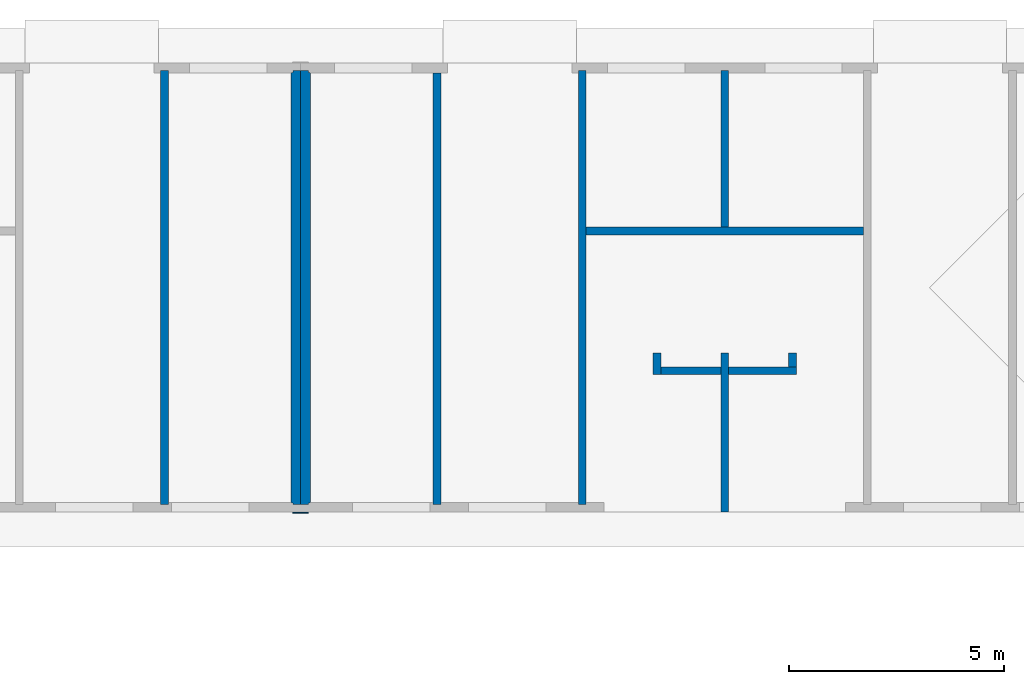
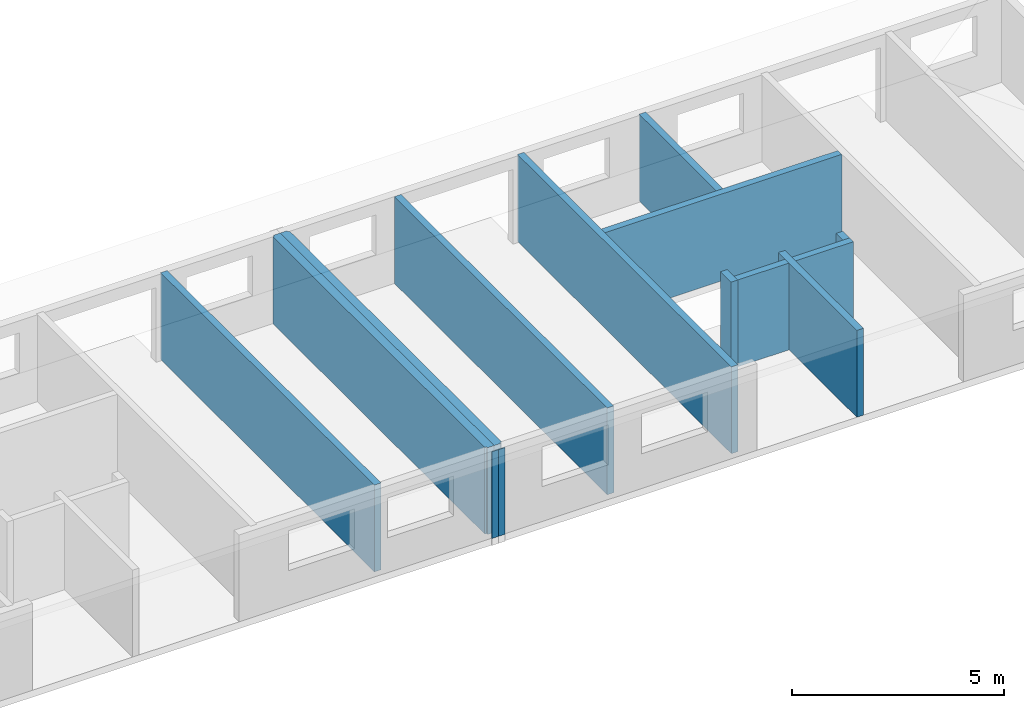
# One storey, part 4 of 9: 14 walls.
"""IFC2X3 building model written with IfcOpenShell, lengths in millimetres."""

from ifc_helpers import new_model, entity, si_unit, converted_unit, frame, frame_2d, origin, origin_with_axes, place, context, subcontext, project, spatial, polyline, rectangle, outline, extrude, material, layer, layer_set, layer_usage, element, save


model = new_model("IFC2X3")

# Units and contexts
model_context = context("Model", 3, precision=1e-05, world=origin())
plan_context = context("Plan", 3, precision=1e-05, world=origin())
body_context = subcontext(model_context, "Body", "Model", "MODEL_VIEW")
ifc_project = project(units=[si_unit("LENGTHUNIT", "METRE", prefix="MILLI"), converted_unit("PLANEANGLEUNIT", "DEGREE", entity("IfcPlaneAngleMeasure", 0.0174532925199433), si_unit("PLANEANGLEUNIT", "RADIAN"), dimensions=[0, 0, 0, 0, 0, 0, 0]), si_unit("AREAUNIT", "SQUARE_METRE"), si_unit("VOLUMEUNIT", "CUBIC_METRE")], contexts=[model_context, plan_context])

# Building, storey
building_placement = place(None, origin())
building = spatial("IfcBuilding", under=ifc_project, at=building_placement, Name="Bâtiment", CompositionType="ELEMENT")
storey_placement = place(building_placement, frame((0.0, 0.0, 8100.0), z_axis=(0.0, 0.0, 1.0), x_axis=(1.0, 0.0, 0.0)))
storey = spatial("IfcBuildingStorey", under=building, at=storey_placement, Name="r+3", CompositionType="ELEMENT", Elevation=8100.0)

# Walls
ifc_material_1 = material(Name="moellons")
ifc_layer_1 = layer(ifc_material_1, 180.0)
ifc_material_2 = material(Name="briquettes")
ifc_layer_2 = layer(ifc_material_2, 40.0)
ifc_material_3 = material(Name="enduit platre")
ifc_layer_3 = layer(ifc_material_3, 10.0)
ifc_layer_set_1 = layer_set([ifc_layer_1, ifc_layer_2, ifc_layer_3])
ifc_layer_usage_1 = layer_usage(ifc_layer_set_1, "AXIS2", "POSITIVE", 0.0)
wall_1_placement = place(storey_placement, frame((19849.99999999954, 10290.07776548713, 0.0), z_axis=(0.0, 0.0, 1.0), x_axis=(-3.605559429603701e-16, -1.0, 0.0)))
element("IfcWallStandardCase", 1, at=wall_1_placement, inside=storey, material=ifc_layer_usage_1, context=body_context, shape_type="SweptSolid", body=[
    extrude(outline(polyline([(0.0, 0.0), (10089.91497192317, 0.0), (10089.91497192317, 180.0), (10049.91497192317, 180.0), (10049.91497192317, 220.0), (10039.91497192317, 220.0), (10039.91497192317, 230.0), (49.99999999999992, 230.0), (49.99999999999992, 220.0), (39.99999999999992, 220.0), (39.99999999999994, 180.0), (-6.490006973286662e-14, 180.0), (0.0, 0.0)])), origin_with_axes(), (0.0, 0.0, 1.0), 2500.0),
])
ifc_material_4 = material(Name="moellons")
ifc_layer_4 = layer(ifc_material_4, 180.0)
ifc_material_5 = material(Name="briquettes")
ifc_layer_5 = layer(ifc_material_5, 40.0)
ifc_material_6 = material(Name="enduit platre")
ifc_layer_6 = layer(ifc_material_6, 10.0)
ifc_layer_set_2 = layer_set([ifc_layer_4, ifc_layer_5, ifc_layer_6])
ifc_layer_usage_2 = layer_usage(ifc_layer_set_2, "AXIS2", "POSITIVE", 0.0)
wall_2_placement = place(storey_placement, frame((19849.99999999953, 200.16279356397, 0.0), z_axis=(0.0, 0.0, 1.0), x_axis=(0.0, 1.0, 0.0)))
element("IfcWallStandardCase", 2, at=wall_2_placement, inside=storey, material=ifc_layer_usage_2, context=body_context, shape_type="SweptSolid", body=[
    extrude(outline(polyline([(0.0, 0.0), (10089.91497192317, 0.0), (10089.91497192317, 180.0), (10049.91497192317, 180.0), (10049.91497192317, 220.0), (10039.91497192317, 220.0), (10039.91497192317, 230.0), (50.0, 230.0), (50.0, 220.0), (40.0, 220.0), (40.0, 180.0), (0.0, 180.0), (0.0, 0.0)])), origin_with_axes(), (0.0, 0.0, 1.0), 2500.0),
])
ifc_material_7 = material(Name="moellons")
ifc_layer_7 = layer(ifc_material_7, 180.0)
ifc_layer_set_3 = layer_set([ifc_layer_7])
ifc_layer_usage_3 = layer_usage(ifc_layer_set_3, "AXIS2", "POSITIVE", 0.0)
wall_3_placement = place(storey_placement, frame((16770.00000000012, 200.0775509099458, 0.0), z_axis=(0.0, 0.0, 1.0), x_axis=(0.0, 1.0, 0.0)))
element("IfcWallStandardCase", 3, at=wall_3_placement, inside=storey, material=ifc_layer_usage_3, context=body_context, shape_type="SweptSolid", body=[
    extrude(rectangle(XDim=10090.00021457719, YDim=180.0, at=frame_2d((5045.000107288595, 90.0), x_axis=(1.0, 0.0))), origin_with_axes(), (0.0, 0.0, 1.0), 2500.0),
])
ifc_material_8 = material(Name="moellons")
ifc_layer_8 = layer(ifc_material_8, 180.0)
ifc_layer_set_4 = layer_set([ifc_layer_8])
ifc_layer_usage_4 = layer_usage(ifc_layer_set_4, "AXIS2", "POSITIVE", 0.0)
wall_4_placement = place(storey_placement, frame((23109.99999999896, 200.077550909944, 0.0), z_axis=(0.0, 0.0, 1.0), x_axis=(0.0, 1.0, 0.0)))
element("IfcWallStandardCase", 4, at=wall_4_placement, inside=storey, material=ifc_layer_usage_4, context=body_context, shape_type="SweptSolid", body=[
    extrude(rectangle(XDim=10040.00021457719, YDim=180.0, at=frame_2d((5020.000107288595, 90.0), x_axis=(1.0, 0.0))), origin_with_axes(), (0.0, 0.0, 1.0), 2500.0),
])
ifc_material_9 = material(Name="moellons")
ifc_layer_9 = layer(ifc_material_9, 180.0)
ifc_layer_set_5 = layer_set([ifc_layer_9])
ifc_layer_usage_5 = layer_usage(ifc_layer_set_5, "AXIS2", "POSITIVE", 0.0)
wall_5_placement = place(storey_placement, frame((26490.00006176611, 200.077550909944, 0.0), z_axis=(0.0, 0.0, 1.0), x_axis=(0.0, 1.0, 0.0)))
element("IfcWallStandardCase", 5, at=wall_5_placement, inside=storey, material=ifc_layer_usage_5, context=body_context, shape_type="SweptSolid", body=[
    extrude(rectangle(XDim=10090.00021457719, YDim=180.0, at=frame_2d((5045.000107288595, 90.0), x_axis=(1.0, 0.0))), origin_with_axes(), (0.0, 0.0, 1.0), 2500.0),
])
ifc_material_10 = material(Name="moellons")
ifc_layer_10 = layer(ifc_material_10, 180.0)
ifc_layer_set_6 = layer_set([ifc_layer_10])
ifc_layer_usage_6 = layer_usage(ifc_layer_set_6, "AXIS2", "POSITIVE", 0.0)
wall_6_placement = place(storey_placement, frame((29804.99999999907, 6650.077765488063, 0.0), z_axis=(0.0, 0.0, 1.0), x_axis=(0.0, 1.0, 0.0)))
element("IfcWallStandardCase", 6, at=wall_6_placement, inside=storey, material=ifc_layer_usage_6, context=body_context, shape_type="SweptSolid", body=[
    extrude(rectangle(XDim=3639.999999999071, YDim=180.0, at=frame_2d((1819.999999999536, 90.0), x_axis=(1.0, 0.0))), origin_with_axes(), (0.0, 0.0, 1.0), 2500.0),
])
ifc_material_11 = material(Name="moellons")
ifc_layer_11 = layer(ifc_material_11, 180.0)
ifc_layer_set_7 = layer_set([ifc_layer_11])
ifc_layer_usage_7 = layer_usage(ifc_layer_set_7, "AXIS2", "POSITIVE", 0.0)
wall_7_placement = place(storey_placement, frame((32939.9995415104, 6650.077765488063, 0.0), z_axis=(0.0, 0.0, 1.0), x_axis=(-1.0, 0.0, 0.0)))
element("IfcWallStandardCase", 7, at=wall_7_placement, inside=storey, material=ifc_layer_usage_7, context=body_context, shape_type="SweptSolid", body=[
    extrude(rectangle(XDim=6449.999479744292, YDim=180.0, at=frame_2d((3224.999739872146, 90.0), x_axis=(1.0, 0.0))), origin_with_axes(), (0.0, 0.0, 1.0), 2500.0),
])
ifc_material_12 = material(Name="moellons")
ifc_layer_12 = layer(ifc_material_12, 180.0)
ifc_layer_set_8 = layer_set([ifc_layer_12])
ifc_layer_usage_8 = layer_usage(ifc_layer_set_8, "AXIS2", "POSITIVE", 0.0)
wall_8_placement = place(storey_placement, frame((28229.99951490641, 3220.077765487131, 0.0), z_axis=(0.0, 0.0, 1.0), x_axis=(0.0, 1.0, 0.0)))
element("IfcWallStandardCase", 8, at=wall_8_placement, inside=storey, material=ifc_layer_usage_8, context=body_context, shape_type="SweptSolid", body=[
    extrude(rectangle(XDim=500.0, YDim=180.0, at=frame_2d((250.0, 90.0), x_axis=(1.0, 0.0))), origin_with_axes(), (0.0, 0.0, 1.0), 2500.0),
])
ifc_material_13 = material(Name="moellons")
ifc_layer_13 = layer(ifc_material_13, 180.0)
ifc_layer_set_9 = layer_set([ifc_layer_13])
ifc_layer_usage_9 = layer_usage(ifc_layer_set_9, "AXIS2", "POSITIVE", 0.0)
wall_9_placement = place(storey_placement, frame((31379.99951490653, 3400.077765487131, 0.0), z_axis=(0.0, 0.0, 1.0), x_axis=(-1.0, 0.0, 0.0)))
element("IfcWallStandardCase", 9, at=wall_9_placement, inside=storey, material=ifc_layer_usage_9, context=body_context, shape_type="SweptSolid", body=[
    extrude(outline(polyline([(0.0, 0.0), (1574.999514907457, 0.0), (1574.999514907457, 180.0), (0.0, 180.0), (0.0, 0.0)])), origin_with_axes(), (0.0, 0.0, 1.0), 2500.0),
])
ifc_material_14 = material(Name="moellons")
ifc_layer_14 = layer(ifc_material_14, 180.0)
ifc_layer_set_10 = layer_set([ifc_layer_14])
ifc_layer_usage_10 = layer_usage(ifc_layer_set_10, "AXIS2", "POSITIVE", 0.0)
wall_10_placement = place(storey_placement, frame((31379.99951490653, 3400.077765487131, 0.0), z_axis=(0.0, 0.0, 1.0), x_axis=(-1.0, 0.0, 0.0)))
element("IfcWallStandardCase", 10, at=wall_10_placement, inside=storey, material=ifc_layer_usage_10, context=body_context, shape_type="SweptSolid", body=[
    extrude(outline(polyline([(1754.999514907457, 0.0), (3150.000000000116, 0.0), (3150.000000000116, 180.0), (1754.999514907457, 180.0), (1754.999514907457, 0.0)])), origin_with_axes(), (0.0, 0.0, 1.0), 2500.0),
])
ifc_material_15 = material(Name="moellons")
ifc_layer_15 = layer(ifc_material_15, 180.0)
ifc_layer_set_11 = layer_set([ifc_layer_15])
ifc_layer_usage_11 = layer_usage(ifc_layer_set_11, "AXIS2", "POSITIVE", 0.0)
wall_11_placement = place(storey_placement, frame((31199.99951490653, 3720.077765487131, 0.0), z_axis=(0.0, 0.0, 1.0), x_axis=(0.0, -1.0, 0.0)))
element("IfcWallStandardCase", 11, at=wall_11_placement, inside=storey, material=ifc_layer_usage_11, context=body_context, shape_type="SweptSolid", body=[
    extrude(rectangle(XDim=320.0, YDim=180.0, at=frame_2d((160.0, 90.0), x_axis=(1.0, 0.0))), origin_with_axes(), (0.0, 0.0, 1.0), 2500.0),
])
ifc_material_16 = material(Name="moellons")
ifc_layer_16 = layer(ifc_material_16, 180.0)
ifc_layer_set_12 = layer_set([ifc_layer_16])
ifc_layer_usage_12 = layer_usage(ifc_layer_set_12, "AXIS2", "POSITIVE", 0.0)
wall_12_placement = place(storey_placement, frame((29804.99999999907, 20.03893477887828, 0.0), z_axis=(0.0, 0.0, 1.0), x_axis=(0.0, 1.0, 0.0)))
element("IfcWallStandardCase", 12, at=wall_12_placement, inside=storey, material=ifc_layer_usage_12, context=body_context, shape_type="SweptSolid", body=[
    extrude(rectangle(XDim=3700.038830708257, YDim=180.0, at=frame_2d((1850.019415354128, 90.0), x_axis=(1.0, 0.0))), origin_with_axes(), (0.0, 0.0, 1.0), 2500.0),
])
ifc_material_17 = material(Name="moellons")
ifc_layer_17 = layer(ifc_material_17, 20.16279356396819)
ifc_layer_set_13 = layer_set([ifc_layer_17])
ifc_layer_usage_13 = layer_usage(ifc_layer_set_13, "AXIS2", "POSITIVE", 0.0)
wall_13_placement = place(storey_placement, frame((20029.99999999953, 1.818989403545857e-12, 0.0), z_axis=(0.0, 0.0, 1.0), x_axis=(-1.0, 0.0, 0.0)))
element("IfcWallStandardCase", 13, at=wall_13_placement, inside=storey, material=ifc_layer_usage_13, context=body_context, shape_type="SweptSolid", body=[
    extrude(rectangle(XDim=180.0, YDim=20.16279356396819, at=frame_2d((90.0, 10.0813967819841), x_axis=(1.0, 0.0))), frame((0.0, -20.16279356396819, 0.0), z_axis=(0.0, 0.0, 1.0), x_axis=(1.0, 0.0, 0.0)), (0.0, 0.0, 1.0), 2500.0),
])
ifc_material_18 = material(Name="moellons")
ifc_layer_18 = layer(ifc_material_18, 20.16279356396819)
ifc_layer_set_14 = layer_set([ifc_layer_18])
ifc_layer_usage_14 = layer_usage(ifc_layer_set_14, "AXIS2", "POSITIVE", 0.0)
wall_14_placement = place(storey_placement, frame((19849.99999999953, 1.818989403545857e-12, 0.0), z_axis=(0.0, 0.0, 1.0), x_axis=(-1.0, 0.0, 0.0)))
element("IfcWallStandardCase", 14, at=wall_14_placement, inside=storey, material=ifc_layer_usage_14, context=body_context, shape_type="SweptSolid", body=[
    extrude(rectangle(XDim=180.0, YDim=20.16279356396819, at=frame_2d((90.0, 10.0813967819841), x_axis=(1.0, 0.0))), frame((0.0, -20.16279356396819, 0.0), z_axis=(0.0, 0.0, 1.0), x_axis=(1.0, 0.0, 0.0)), (0.0, 0.0, 1.0), 2500.0),
])

save(model, "model.ifc")
